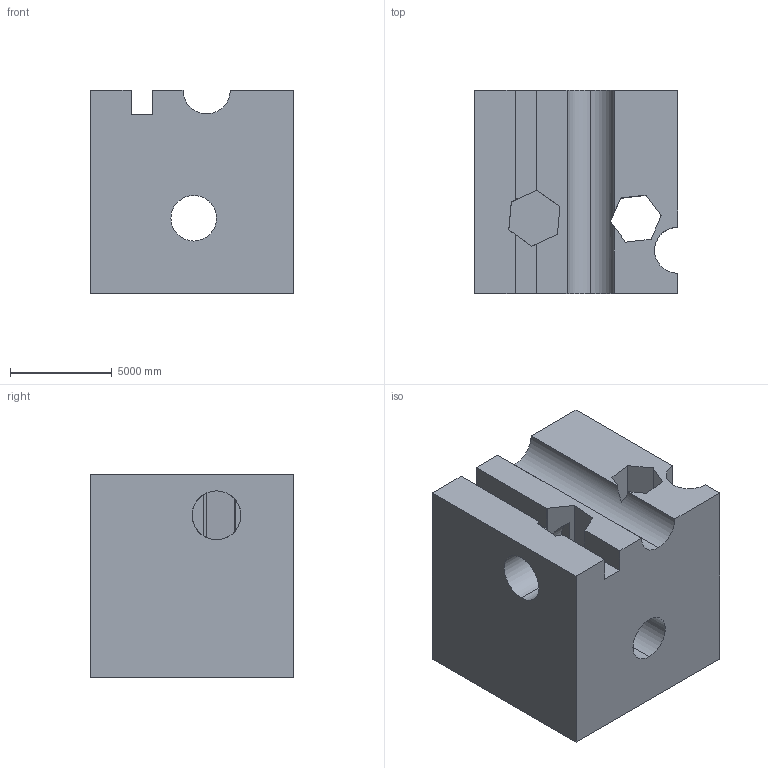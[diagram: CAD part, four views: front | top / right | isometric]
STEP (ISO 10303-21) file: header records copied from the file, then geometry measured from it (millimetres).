
FILE_DESCRIPTION (( 'STEP AP203' ), '1' );
FILE_NAME ('692.STEP', '2022-07-29T12:33:40', ( 'user' ), ( '' ), 'SwSTEP 2.0', 'SolidWorks 2021', '' );
FILE_SCHEMA (( 'CONFIG_CONTROL_DESIGN' ));
Length unit declared in the file: centimetre
Products named in the file (1): 692
Bounding box: 10000 x 10000 x 10000 mm (x, y, z)
Volume: 834790560370.3 mm3; surface area: 807790048.1 mm2
Topology: 1 solids, 1 shells, 42 faces, 120 edges, 80 vertices
Faces by surface type: plane 32, cylinder 10
Entity records: 1450 total; most frequent: CARTESIAN_POINT 276, ORIENTED_EDGE 240, DIRECTION 212, EDGE_CURVE 120, LINE 92, VECTOR 92, VERTEX_POINT 80, AXIS2_PLACEMENT_3D 60
